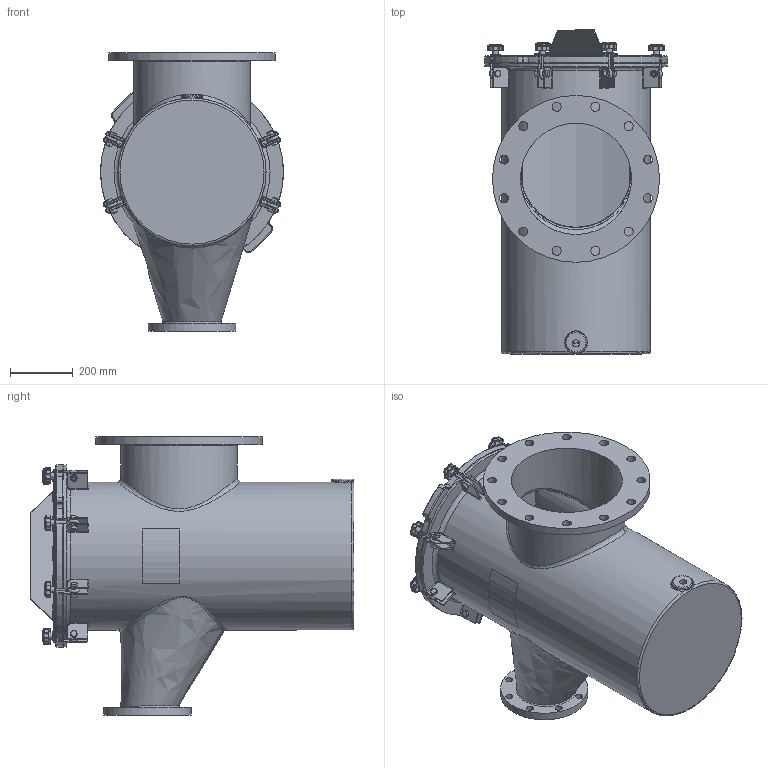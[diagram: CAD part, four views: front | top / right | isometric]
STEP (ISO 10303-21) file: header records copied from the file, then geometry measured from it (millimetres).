
FILE_DESCRIPTION(/* description */ ('STRAINER BODY'),/* implementation_level */ '2;1');
FILE_NAME(/* name */ 'Z:\Output\Strainers\11-14-2016\CAD\150NBFG46ER1.stp',/* time_stamp */ '2016-11-16T20:14:03+06:00',/* author */ ('20093558'),/* organization */ (''),/* preprocessor_version */ 'ST-DEVELOPER v16.1',/* originating_system */ 'Autodesk Inventor 2016',/* authorisation */ '');
FILE_SCHEMA (('AUTOMOTIVE_DESIGN { 1 0 10303 214 3 1 1 }'));
Length unit declared in the file: inch
Products named in the file (24): NBFG46EBODYR1; 150NBCVR18R2; 150NBGSK18R1; Perforated Basket 18in; Bride (Ring) 18in; Baffle 18in; Handle 18in; Bottom Strainer 18in; NBBSK14T316; BRACESTRCVR18_Welds; BRACE (BASE) FOR 18 BODY; BRACE (PROJ) FOR 18 BODY; Bumper; BRACESTRCVR18; Nut- 1_2  UNC; Bolt-1_2 x 1 1_2  UNC; EyeBolt; Washer; Knob M10; Securing Assembly For FG  with Brace; Securing Assembly For FG without Brace; Label for 18.625 inch (Right); Label for 18.625 inch (Left); Guardian FG Reducing H&L Strainer (Inch)
Assembly tree (39 placements, depth 3):
  Guardian FG Reducing H&L Strainer (Inch)
    NBFG46EBODYR1
    150NBCVR18R2
    150NBGSK18R1
    NBBSK14T316
      Perforated Basket 18in
      Bride (Ring) 18in
      Baffle 18in
      Handle 18in
      Bottom Strainer 18in
    BRACESTRCVR18
      BRACESTRCVR18_Welds
      BRACE (BASE) FOR 18 BODY
      BRACE (PROJ) FOR 18 BODY
      Bumper  x6
    Securing Assembly For FG  with Brace  x2
      Nut- 1_2  UNC
      Bolt-1_2 x 1 1_2  UNC
      EyeBolt
      Washer
      Knob M10
    Securing Assembly For FG without Brace  x6
      Nut- 1_2  UNC
      Bolt-1_2 x 1 1_2  UNC
      EyeBolt
      Washer
      Knob M10
    Label for 18.625 inch (Right)
    Label for 18.625 inch (Left)
Bounding box: 584.2 x 1035.05 x 889 mm (x, y, z)
Volume: 28819820.9 mm3; surface area: 7367547.4 mm2
Topology: 67 solids, 67 shells, 1827 faces, 4172 edges, 2468 vertices
Faces by surface type: cylinder 668, plane 511, cone 184, torus 168, sphere 158, bspline 138
Full cylindrical faces by diameter (mm): 3.175 x11, 6.35 x2, 8.382 x8, 9.525 x16, 10.592 x8, 12.7 x8, 15.875 x16, 19 x16, 19.05 x8, 22.225 x8, 22.809 x1, 28.575 x12, 31.75 x8, 68.263 x1, 279.4 x1, 352.425 x2, 355.6 x2, 358.14 x1, 371.475 x1, 457.2 x3, 463.55 x1, 473.075 x1, 520.7 x1, 527.05 x1, 533.4 x1
Entity records: 35256 total; most frequent: CARTESIAN_POINT 11931, DIRECTION 4814, ORIENTED_EDGE 4418, EDGE_CURVE 2209, AXIS2_PLACEMENT_3D 1967, VERTEX_POINT 1385, EDGE_LOOP 1190, ADVANCED_FACE 977
